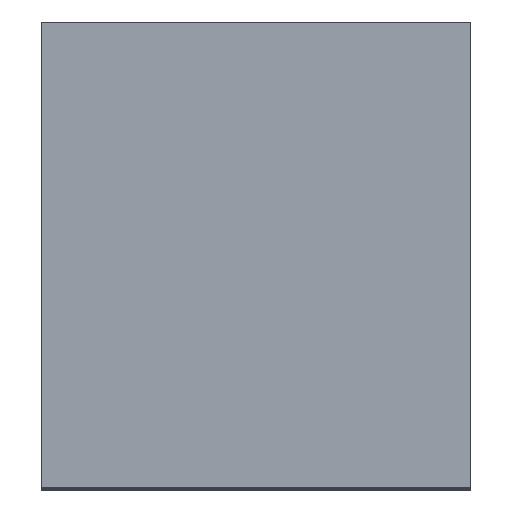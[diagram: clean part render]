
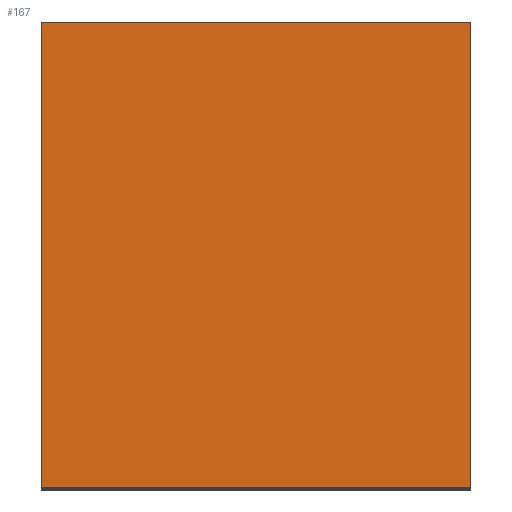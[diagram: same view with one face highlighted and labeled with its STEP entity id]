
A CAD part, top view. The second image highlights one B-rep face of the part: STEP entity #167.
In plain terms, the highlighted planar face has unit normal (0, 0, 1).
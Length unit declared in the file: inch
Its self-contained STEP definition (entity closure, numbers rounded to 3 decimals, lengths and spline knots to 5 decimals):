
#167 = ADVANCED_FACE ( 'NONE', ( #713 ), #707, .F. ) ;
#168 = EDGE_LOOP ( 'NONE', ( #169, #225, #228, #231 ) ) ;
#169 = ORIENTED_EDGE ( 'NONE', *, *, #170, .T. ) ;
#170 = EDGE_CURVE ( 'NONE', #171, #224, #702, .T. ) ;
#171 = VERTEX_POINT ( 'NONE', #698 ) ;
#224 = VERTEX_POINT ( 'NONE', #847 ) ;
#225 = ORIENTED_EDGE ( 'NONE', *, *, #226, .F. ) ;
#226 = EDGE_CURVE ( 'NONE', #227, #224, #846, .T. ) ;
#227 = VERTEX_POINT ( 'NONE', #842 ) ;
#228 = ORIENTED_EDGE ( 'NONE', *, *, #229, .F. ) ;
#229 = EDGE_CURVE ( 'NONE', #230, #227, #841, .T. ) ;
#230 = VERTEX_POINT ( 'NONE', #837 ) ;
#231 = ORIENTED_EDGE ( 'NONE', *, *, #232, .T. ) ;
#232 = EDGE_CURVE ( 'NONE', #230, #171, #836, .T. ) ;
#698 = CARTESIAN_POINT ( 'NONE',  ( -1.1811, 2.55906, 0. ) ) ;
#699 = DIRECTION ( 'NONE',  ( 0., -1., 0. ) ) ;
#700 = VECTOR ( 'NONE', #699, 39.37008 ) ;
#701 = CARTESIAN_POINT ( 'NONE',  ( -1.1811, 0., 0. ) ) ;
#702 = LINE ( 'NONE', #701, #700 ) ;
#703 = DIRECTION ( 'NONE',  ( -1., 0., 0. ) ) ;
#704 = DIRECTION ( 'NONE',  ( 0., 0., -1. ) ) ;
#705 = CARTESIAN_POINT ( 'NONE',  ( 1.1811, 0., 0. ) ) ;
#706 = AXIS2_PLACEMENT_3D ( 'NONE', #705, #704, #703 ) ;
#707 = PLANE ( 'NONE',  #706 ) ;
#713 = FACE_OUTER_BOUND ( 'NONE', #168, .T. ) ;
#833 = DIRECTION ( 'NONE',  ( -1., 0., 0. ) ) ;
#834 = VECTOR ( 'NONE', #833, 39.37008 ) ;
#835 = CARTESIAN_POINT ( 'NONE',  ( 1.1811, 2.55906, 0. ) ) ;
#836 = LINE ( 'NONE', #835, #834 ) ;
#837 = CARTESIAN_POINT ( 'NONE',  ( 1.1811, 2.55906, 0. ) ) ;
#838 = DIRECTION ( 'NONE',  ( 0., -1., 0. ) ) ;
#839 = VECTOR ( 'NONE', #838, 39.37008 ) ;
#840 = CARTESIAN_POINT ( 'NONE',  ( 1.1811, 0., 0. ) ) ;
#841 = LINE ( 'NONE', #840, #839 ) ;
#842 = CARTESIAN_POINT ( 'NONE',  ( 1.1811, 0., 0. ) ) ;
#843 = DIRECTION ( 'NONE',  ( -1., 0., 0. ) ) ;
#844 = VECTOR ( 'NONE', #843, 39.37008 ) ;
#845 = CARTESIAN_POINT ( 'NONE',  ( 1.1811, 0., 0. ) ) ;
#846 = LINE ( 'NONE', #845, #844 ) ;
#847 = CARTESIAN_POINT ( 'NONE',  ( -1.1811, 0., 0. ) ) ;
